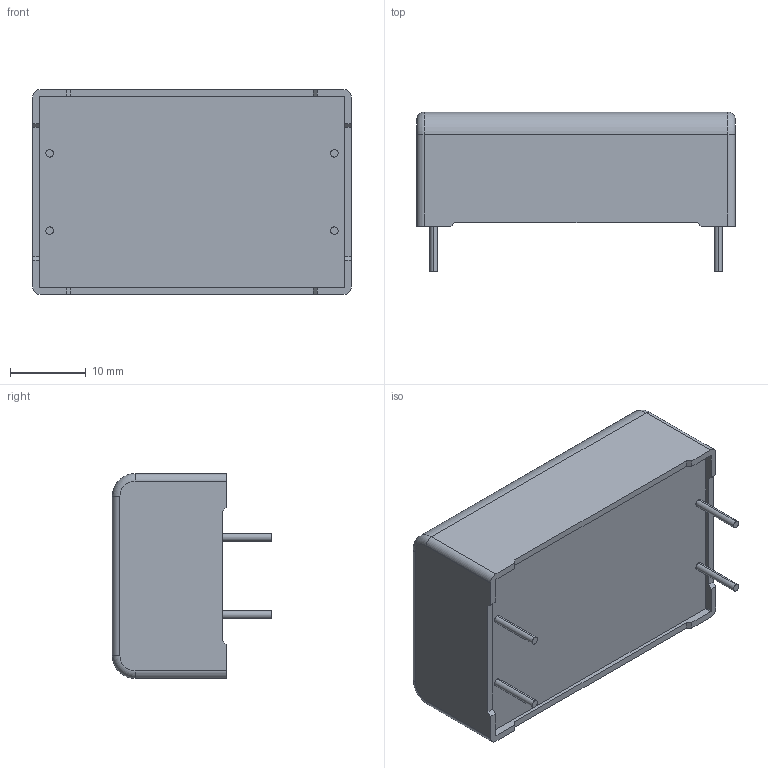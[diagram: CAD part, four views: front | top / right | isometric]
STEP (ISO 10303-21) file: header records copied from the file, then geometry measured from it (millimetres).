
FILE_DESCRIPTION (( 'STEP AP203' ), '1' );
FILE_NAME ('DC_Link_27x15x42_4pins10.2.step', '2017-04-03T16:00:00', ( 'work' ), ( 'Hewlett-Packard Company' ), 'SwSTEP 2.0', 'SolidWorks 2017', '' );
FILE_SCHEMA (( 'CONFIG_CONTROL_DESIGN' ));
Length unit declared in the file: millimetre
Products named in the file (1): DC_Link_27x15x42_4pins10.2
Bounding box: 42 x 21 x 27 mm (x, y, z)
Volume: 15788.6 mm3; surface area: 4294.3 mm2
Topology: 1 solids, 1 shells, 122 faces, 319 edges, 210 vertices
Faces by surface type: plane 82, cylinder 20, bspline 16, torus 4
Entity records: 4492 total; most frequent: CARTESIAN_POINT 1476, ORIENTED_EDGE 638, DIRECTION 545, EDGE_CURVE 319, VECTOR 243, LINE 243, VERTEX_POINT 210, AXIS2_PLACEMENT_3D 151
